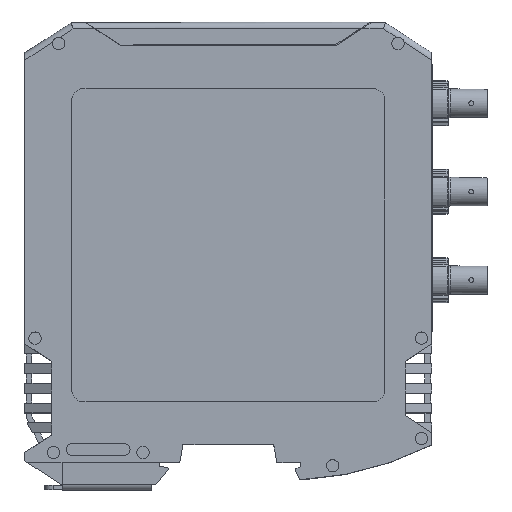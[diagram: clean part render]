
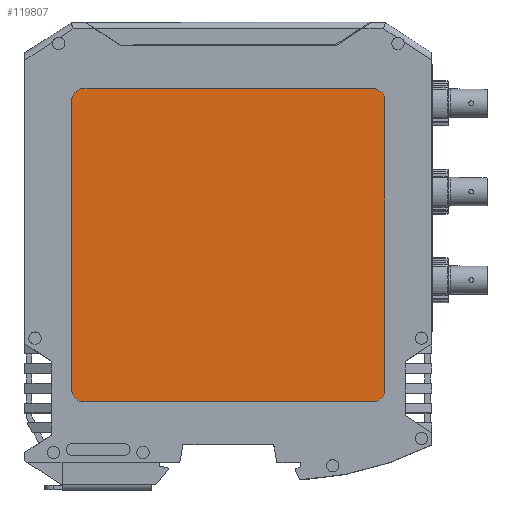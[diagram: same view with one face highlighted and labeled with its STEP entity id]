
A CAD part, top view. The second image highlights one B-rep face of the part: STEP entity #119807.
In plain terms, the highlighted planar face has unit normal (0, 0, 1).
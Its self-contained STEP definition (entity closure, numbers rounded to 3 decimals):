
#8759 = LINE ( 'NONE', #168674, #159204 ) ;
#13346 = PLANE ( 'NONE',  #50344 ) ;
#15958 = CARTESIAN_POINT ( 'NONE',  ( -35.1, 98.521, 14.1 ) ) ;
#22940 = EDGE_CURVE ( 'NONE', #166281, #49681, #181294, .T. ) ;
#28229 = VERTEX_POINT ( 'NONE', #144845 ) ;
#32135 = ORIENTED_EDGE ( 'NONE', *, *, #50533, .T. ) ;
#32453 = ORIENTED_EDGE ( 'NONE', *, *, #68555, .F. ) ;
#36050 = CARTESIAN_POINT ( 'NONE',  ( -38.1, 95.521, 14.1 ) ) ;
#41022 = EDGE_CURVE ( 'NONE', #67078, #28229, #50084, .T. ) ;
#46692 = CARTESIAN_POINT ( 'NONE',  ( -35.1, 98.521, 14.1 ) ) ;
#49681 = VERTEX_POINT ( 'NONE', #162451 ) ;
#50024 = VECTOR ( 'NONE', #103270, 1000. ) ;
#50084 = LINE ( 'NONE', #36050, #123080 ) ;
#50344 = AXIS2_PLACEMENT_3D ( 'NONE', #86549, #188465, #101204 ) ;
#50533 = EDGE_CURVE ( 'NONE', #166281, #188261, #54562, .T. ) ;
#52620 = VERTEX_POINT ( 'NONE', #166858 ) ;
#54562 = LINE ( 'NONE', #15958, #50024 ) ;
#59380 = CARTESIAN_POINT ( 'NONE',  ( 35.1, 95.521, 14.1 ) ) ;
#62563 = ORIENTED_EDGE ( 'NONE', *, *, #162423, .T. ) ;
#63765 = CARTESIAN_POINT ( 'NONE',  ( 35.1, 25.321, 14.1 ) ) ;
#64466 = CIRCLE ( 'NONE', #79861, 3. ) ;
#67078 = VERTEX_POINT ( 'NONE', #92516 ) ;
#68555 = EDGE_CURVE ( 'NONE', #98223, #28229, #64466, .T. ) ;
#71517 = AXIS2_PLACEMENT_3D ( 'NONE', #63765, #165683, #78411 ) ;
#71655 = ORIENTED_EDGE ( 'NONE', *, *, #115371, .F. ) ;
#74055 = DIRECTION ( 'NONE',  ( -1., 0., 0. ) ) ;
#74592 = VECTOR ( 'NONE', #141288, 1000. ) ;
#75581 = VERTEX_POINT ( 'NONE', #97724 ) ;
#76700 = CARTESIAN_POINT ( 'NONE',  ( -35.1, 25.321, 14.1 ) ) ;
#77173 = DIRECTION ( 'NONE',  ( 0., 0., -1. ) ) ;
#78127 = EDGE_CURVE ( 'NONE', #67078, #188261, #119690, .T. ) ;
#78411 = DIRECTION ( 'NONE',  ( -1., 0., 0. ) ) ;
#79149 = LINE ( 'NONE', #155982, #74592 ) ;
#79861 = AXIS2_PLACEMENT_3D ( 'NONE', #76700, #178622, #91307 ) ;
#80903 = AXIS2_PLACEMENT_3D ( 'NONE', #59380, #161354, #74055 ) ;
#81359 = ORIENTED_EDGE ( 'NONE', *, *, #22940, .F. ) ;
#81617 = ORIENTED_EDGE ( 'NONE', *, *, #88902, .T. ) ;
#85735 = CARTESIAN_POINT ( 'NONE',  ( -35.1, 22.321, 14.1 ) ) ;
#86549 = CARTESIAN_POINT ( 'NONE',  ( -35.1, 95.521, 14.1 ) ) ;
#87507 = EDGE_LOOP ( 'NONE', ( #71655, #62563, #81359, #32135, #184180, #164603, #32453, #81617 ) ) ;
#88902 = EDGE_CURVE ( 'NONE', #98223, #52620, #79149, .T. ) ;
#91307 = DIRECTION ( 'NONE',  ( -1., 0., 0. ) ) ;
#92516 = CARTESIAN_POINT ( 'NONE',  ( -38.1, 95.521, 14.1 ) ) ;
#95985 = DIRECTION ( 'NONE',  ( 0., 1., 0. ) ) ;
#97724 = CARTESIAN_POINT ( 'NONE',  ( 38.1, 25.321, 14.1 ) ) ;
#98223 = VERTEX_POINT ( 'NONE', #85735 ) ;
#101204 = DIRECTION ( 'NONE',  ( 1., 0., 0. ) ) ;
#103270 = DIRECTION ( 'NONE',  ( -1., 0., 0. ) ) ;
#109932 = DIRECTION ( 'NONE',  ( 0., -1., 0. ) ) ;
#112080 = FACE_OUTER_BOUND ( 'NONE', #87507, .T. ) ;
#115371 = EDGE_CURVE ( 'NONE', #75581, #52620, #144768, .T. ) ;
#119690 = CIRCLE ( 'NONE', #164428, 3. ) ;
#119807 = ADVANCED_FACE ( 'NONE', ( #112080 ), #13346, .T. ) ;
#123080 = VECTOR ( 'NONE', #109932, 1000. ) ;
#141272 = CARTESIAN_POINT ( 'NONE',  ( 35.1, 98.521, 14.1 ) ) ;
#141288 = DIRECTION ( 'NONE',  ( 1., 0., 0. ) ) ;
#144768 = CIRCLE ( 'NONE', #71517, 3. ) ;
#144845 = CARTESIAN_POINT ( 'NONE',  ( -38.1, 25.321, 14.1 ) ) ;
#155982 = CARTESIAN_POINT ( 'NONE',  ( -35.1, 22.321, 14.1 ) ) ;
#159204 = VECTOR ( 'NONE', #95985, 1000. ) ;
#161354 = DIRECTION ( 'NONE',  ( 0., 0., -1. ) ) ;
#162423 = EDGE_CURVE ( 'NONE', #75581, #49681, #8759, .T. ) ;
#162451 = CARTESIAN_POINT ( 'NONE',  ( 38.1, 95.521, 14.1 ) ) ;
#164428 = AXIS2_PLACEMENT_3D ( 'NONE', #164439, #77173, #179075 ) ;
#164439 = CARTESIAN_POINT ( 'NONE',  ( -35.1, 95.521, 14.1 ) ) ;
#164603 = ORIENTED_EDGE ( 'NONE', *, *, #41022, .T. ) ;
#165683 = DIRECTION ( 'NONE',  ( 0., 0., -1. ) ) ;
#166281 = VERTEX_POINT ( 'NONE', #141272 ) ;
#166858 = CARTESIAN_POINT ( 'NONE',  ( 35.1, 22.321, 14.1 ) ) ;
#168674 = CARTESIAN_POINT ( 'NONE',  ( 38.1, 95.521, 14.1 ) ) ;
#178622 = DIRECTION ( 'NONE',  ( 0., 0., -1. ) ) ;
#179075 = DIRECTION ( 'NONE',  ( -1., 0., 0. ) ) ;
#181294 = CIRCLE ( 'NONE', #80903, 3. ) ;
#184180 = ORIENTED_EDGE ( 'NONE', *, *, #78127, .F. ) ;
#188261 = VERTEX_POINT ( 'NONE', #46692 ) ;
#188465 = DIRECTION ( 'NONE',  ( 0., 0., 1. ) ) ;
